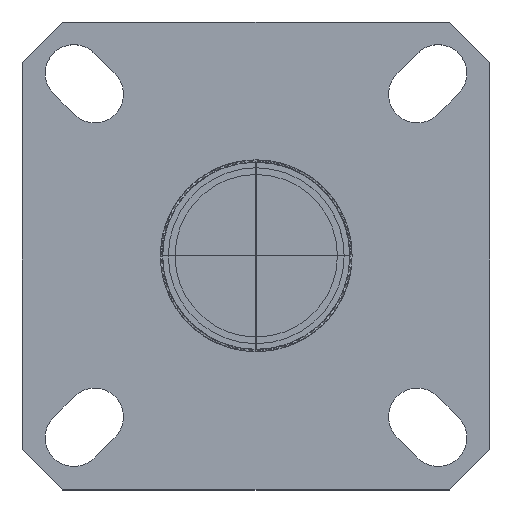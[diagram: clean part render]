
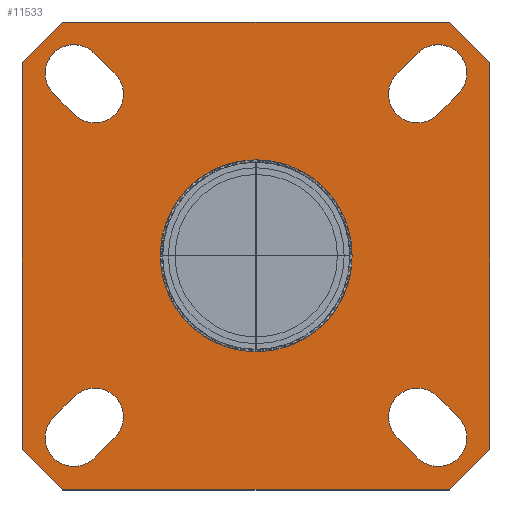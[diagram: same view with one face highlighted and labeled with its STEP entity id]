
A CAD part, top view. The second image highlights one B-rep face of the part: STEP entity #11533.
In plain terms, the highlighted planar face has unit normal (0, 0, 1).
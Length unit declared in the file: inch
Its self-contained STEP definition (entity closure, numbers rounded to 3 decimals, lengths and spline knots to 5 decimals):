
#2515=CARTESIAN_POINT('',(0.,0.,0.));
#2516=DIRECTION('',(0.,0.,1.));
#2517=DIRECTION('',(1.,0.,0.));
#2518=AXIS2_PLACEMENT_3D('',#2515,#2516,#2517);
#3717=DIRECTION('',(0.707,0.707,0.));
#3718=VECTOR('',#3717,0.128);
#3719=CARTESIAN_POINT('',(-0.522,0.43049,0.));
#3720=LINE('',#3719,#3718);
#3721=DIRECTION('',(1.,0.,0.));
#3722=VECTOR('',#3721,0.86198);
#3723=CARTESIAN_POINT('',(-0.43149,0.521,0.));
#3724=LINE('',#3723,#3722);
#3725=DIRECTION('',(0.707,-0.707,0.));
#3726=VECTOR('',#3725,0.128);
#3727=CARTESIAN_POINT('',(0.43049,0.521,0.));
#3728=LINE('',#3727,#3726);
#3729=DIRECTION('',(0.,-1.,0.));
#3730=VECTOR('',#3729,0.86198);
#3731=CARTESIAN_POINT('',(0.521,0.43049,0.));
#3732=LINE('',#3731,#3730);
#3733=DIRECTION('',(-0.707,-0.707,0.));
#3734=VECTOR('',#3733,0.128);
#3735=CARTESIAN_POINT('',(0.521,-0.43149,0.));
#3736=LINE('',#3735,#3734);
#3737=DIRECTION('',(-1.,0.,0.));
#3738=VECTOR('',#3737,0.86198);
#3739=CARTESIAN_POINT('',(0.43049,-0.522,0.));
#3740=LINE('',#3739,#3738);
#3741=DIRECTION('',(-0.707,0.707,0.));
#3742=VECTOR('',#3741,0.128);
#3743=CARTESIAN_POINT('',(-0.43149,-0.522,0.));
#3744=LINE('',#3743,#3742);
#3745=DIRECTION('',(0.,1.,0.));
#3746=VECTOR('',#3745,0.86198);
#3747=CARTESIAN_POINT('',(-0.522,-0.43149,0.));
#3748=LINE('',#3747,#3746);
#3749=DIRECTION('',(-0.707,-0.707,0.));
#3750=VECTOR('',#3749,0.06576);
#3751=CARTESIAN_POINT('',(-0.40525,-0.31375,0.));
#3752=LINE('',#3751,#3750);
#3753=CARTESIAN_POINT('',(-0.4065,-0.4055,0.));
#3754=DIRECTION('',(0.,0.,1.));
#3755=DIRECTION('',(-0.707,0.707,0.));
#3756=AXIS2_PLACEMENT_3D('',#3753,#3754,#3755);
#3758=DIRECTION('',(0.707,0.707,0.));
#3759=VECTOR('',#3758,0.06576);
#3760=CARTESIAN_POINT('',(-0.36125,-0.45075,0.));
#3761=LINE('',#3760,#3759);
#3762=CARTESIAN_POINT('',(-0.36,-0.359,0.));
#3763=DIRECTION('',(0.,0.,1.));
#3764=DIRECTION('',(0.707,-0.707,0.));
#3765=AXIS2_PLACEMENT_3D('',#3762,#3763,#3764);
#3767=DIRECTION('',(0.707,-0.707,0.));
#3768=VECTOR('',#3767,0.06576);
#3769=CARTESIAN_POINT('',(-0.45175,0.36125,0.));
#3770=LINE('',#3769,#3768);
#3771=CARTESIAN_POINT('',(-0.36,0.36,0.));
#3772=DIRECTION('',(0.,0.,1.));
#3773=DIRECTION('',(-0.707,-0.707,0.));
#3774=AXIS2_PLACEMENT_3D('',#3771,#3772,#3773);
#3776=DIRECTION('',(-0.707,0.707,0.));
#3777=VECTOR('',#3776,0.06576);
#3778=CARTESIAN_POINT('',(-0.31475,0.40525,0.));
#3779=LINE('',#3778,#3777);
#3780=CARTESIAN_POINT('',(-0.4065,0.4065,0.));
#3781=DIRECTION('',(0.,0.,1.));
#3782=DIRECTION('',(0.707,0.707,0.));
#3783=AXIS2_PLACEMENT_3D('',#3780,#3781,#3782);
#3785=DIRECTION('',(-0.707,-0.707,0.));
#3786=VECTOR('',#3785,0.06576);
#3787=CARTESIAN_POINT('',(0.36025,0.45175,0.));
#3788=LINE('',#3787,#3786);
#3789=CARTESIAN_POINT('',(0.359,0.36,0.));
#3790=DIRECTION('',(0.,0.,1.));
#3791=DIRECTION('',(-0.707,0.707,0.));
#3792=AXIS2_PLACEMENT_3D('',#3789,#3790,#3791);
#3794=DIRECTION('',(0.707,0.707,0.));
#3795=VECTOR('',#3794,0.06576);
#3796=CARTESIAN_POINT('',(0.40425,0.31475,0.));
#3797=LINE('',#3796,#3795);
#3798=CARTESIAN_POINT('',(0.4055,0.4065,0.));
#3799=DIRECTION('',(0.,0.,1.));
#3800=DIRECTION('',(0.707,-0.707,0.));
#3801=AXIS2_PLACEMENT_3D('',#3798,#3799,#3800);
#3803=CARTESIAN_POINT('',(0.359,-0.359,0.));
#3804=DIRECTION('',(0.,0.,1.));
#3805=DIRECTION('',(0.707,0.707,0.));
#3806=AXIS2_PLACEMENT_3D('',#3803,#3804,#3805);
#3808=DIRECTION('',(0.707,-0.707,0.));
#3809=VECTOR('',#3808,0.06576);
#3810=CARTESIAN_POINT('',(0.31375,-0.40425,0.));
#3811=LINE('',#3810,#3809);
#3812=CARTESIAN_POINT('',(0.4055,-0.4055,0.));
#3813=DIRECTION('',(0.,0.,1.));
#3814=DIRECTION('',(-0.707,-0.707,0.));
#3815=AXIS2_PLACEMENT_3D('',#3812,#3813,#3814);
#3817=DIRECTION('',(-0.707,0.707,0.));
#3818=VECTOR('',#3817,0.06576);
#3819=CARTESIAN_POINT('',(0.45075,-0.36025,0.));
#3820=LINE('',#3819,#3818);
#4021=CARTESIAN_POINT('',(0.,0.,0.));
#4022=DIRECTION('',(0.,0.,1.));
#4023=DIRECTION('',(-1.,0.,0.));
#4024=AXIS2_PLACEMENT_3D('',#4021,#4022,#4023);
#9499=CARTESIAN_POINT('',(-0.522,0.43049,0.));
#9500=CARTESIAN_POINT('',(-0.43149,0.521,0.));
#9501=VERTEX_POINT('',#9499);
#9502=VERTEX_POINT('',#9500);
#9503=CARTESIAN_POINT('',(0.43049,0.521,0.));
#9504=VERTEX_POINT('',#9503);
#9505=CARTESIAN_POINT('',(0.521,0.43049,0.));
#9506=VERTEX_POINT('',#9505);
#9507=CARTESIAN_POINT('',(0.521,-0.43149,0.));
#9508=VERTEX_POINT('',#9507);
#9509=CARTESIAN_POINT('',(0.43049,-0.522,0.));
#9510=VERTEX_POINT('',#9509);
#9511=CARTESIAN_POINT('',(-0.43149,-0.522,0.));
#9512=VERTEX_POINT('',#9511);
#9513=CARTESIAN_POINT('',(-0.522,-0.43149,0.));
#9514=VERTEX_POINT('',#9513);
#9515=CARTESIAN_POINT('',(-0.40525,-0.31375,0.));
#9516=CARTESIAN_POINT('',(-0.45175,-0.36025,0.));
#9517=VERTEX_POINT('',#9515);
#9518=VERTEX_POINT('',#9516);
#9519=CARTESIAN_POINT('',(-0.36125,-0.45075,0.));
#9520=VERTEX_POINT('',#9519);
#9521=CARTESIAN_POINT('',(-0.31475,-0.40425,0.));
#9522=VERTEX_POINT('',#9521);
#9523=CARTESIAN_POINT('',(-0.45175,0.36125,0.));
#9524=CARTESIAN_POINT('',(-0.40525,0.31475,0.));
#9525=VERTEX_POINT('',#9523);
#9526=VERTEX_POINT('',#9524);
#9527=CARTESIAN_POINT('',(-0.31475,0.40525,0.));
#9528=VERTEX_POINT('',#9527);
#9529=CARTESIAN_POINT('',(-0.36125,0.45175,0.));
#9530=VERTEX_POINT('',#9529);
#9531=CARTESIAN_POINT('',(0.36025,0.45175,0.));
#9532=CARTESIAN_POINT('',(0.31375,0.40525,0.));
#9533=VERTEX_POINT('',#9531);
#9534=VERTEX_POINT('',#9532);
#9535=CARTESIAN_POINT('',(0.40425,0.31475,0.));
#9536=VERTEX_POINT('',#9535);
#9537=CARTESIAN_POINT('',(0.45075,0.36125,0.));
#9538=VERTEX_POINT('',#9537);
#9539=CARTESIAN_POINT('',(0.40425,-0.31375,0.));
#9540=CARTESIAN_POINT('',(0.31375,-0.40425,0.));
#9541=VERTEX_POINT('',#9539);
#9542=VERTEX_POINT('',#9540);
#9543=CARTESIAN_POINT('',(0.36025,-0.45075,0.));
#9544=VERTEX_POINT('',#9543);
#9545=CARTESIAN_POINT('',(0.45075,-0.36025,0.));
#9546=VERTEX_POINT('',#9545);
#9595=CARTESIAN_POINT('',(0.2135,0.,0.));
#9596=CARTESIAN_POINT('',(-0.2135,0.,0.));
#9597=VERTEX_POINT('',#9595);
#9598=VERTEX_POINT('',#9596);
#11465=CARTESIAN_POINT('',(0.,0.,0.));
#11466=DIRECTION('',(0.,0.,-1.));
#11467=DIRECTION('',(0.,-1.,0.));
#11468=AXIS2_PLACEMENT_3D('',#11465,#11466,#11467);
#11469=PLANE('',#11468);
#11471=ORIENTED_EDGE('',*,*,#11470,.T.);
#11473=ORIENTED_EDGE('',*,*,#11472,.T.);
#11475=ORIENTED_EDGE('',*,*,#11474,.T.);
#11477=ORIENTED_EDGE('',*,*,#11476,.T.);
#11479=ORIENTED_EDGE('',*,*,#11478,.T.);
#11481=ORIENTED_EDGE('',*,*,#11480,.T.);
#11483=ORIENTED_EDGE('',*,*,#11482,.T.);
#11485=ORIENTED_EDGE('',*,*,#11484,.T.);
#11486=EDGE_LOOP('',(#11471,#11473,#11475,#11477,#11479,#11481,#11483,#11485));
#11487=FACE_OUTER_BOUND('',#11486,.F.);
#11489=ORIENTED_EDGE('',*,*,#11488,.T.);
#11491=ORIENTED_EDGE('',*,*,#11490,.T.);
#11493=ORIENTED_EDGE('',*,*,#11492,.T.);
#11495=ORIENTED_EDGE('',*,*,#11494,.T.);
#11496=EDGE_LOOP('',(#11489,#11491,#11493,#11495));
#11497=FACE_BOUND('',#11496,.F.);
#11499=ORIENTED_EDGE('',*,*,#11498,.T.);
#11501=ORIENTED_EDGE('',*,*,#11500,.T.);
#11503=ORIENTED_EDGE('',*,*,#11502,.T.);
#11505=ORIENTED_EDGE('',*,*,#11504,.T.);
#11506=EDGE_LOOP('',(#11499,#11501,#11503,#11505));
#11507=FACE_BOUND('',#11506,.F.);
#11509=ORIENTED_EDGE('',*,*,#11508,.T.);
#11511=ORIENTED_EDGE('',*,*,#11510,.T.);
#11513=ORIENTED_EDGE('',*,*,#11512,.T.);
#11515=ORIENTED_EDGE('',*,*,#11514,.T.);
#11516=EDGE_LOOP('',(#11509,#11511,#11513,#11515));
#11517=FACE_BOUND('',#11516,.F.);
#11519=ORIENTED_EDGE('',*,*,#11518,.T.);
#11521=ORIENTED_EDGE('',*,*,#11520,.T.);
#11523=ORIENTED_EDGE('',*,*,#11522,.T.);
#11525=ORIENTED_EDGE('',*,*,#11524,.T.);
#11526=EDGE_LOOP('',(#11519,#11521,#11523,#11525));
#11527=FACE_BOUND('',#11526,.F.);
#11528=ORIENTED_EDGE('',*,*,#11025,.T.);
#11530=ORIENTED_EDGE('',*,*,#11529,.T.);
#11531=EDGE_LOOP('',(#11528,#11530));
#11532=FACE_BOUND('',#11531,.F.);
#11533=ADVANCED_FACE('',(#11487,#11497,#11507,#11517,#11527,#11532),#11469,.F.);
#2519=CIRCLE('',#2518,0.2135);
#3757=CIRCLE('',#3756,0.064);
#3766=CIRCLE('',#3765,0.064);
#3775=CIRCLE('',#3774,0.064);
#3784=CIRCLE('',#3783,0.064);
#3793=CIRCLE('',#3792,0.064);
#3802=CIRCLE('',#3801,0.064);
#3807=CIRCLE('',#3806,0.064);
#3816=CIRCLE('',#3815,0.064);
#4025=CIRCLE('',#4024,0.2135);
#11025=EDGE_CURVE('',#9597,#9598,#2519,.T.);
#11470=EDGE_CURVE('',#9501,#9502,#3720,.T.);
#11472=EDGE_CURVE('',#9502,#9504,#3724,.T.);
#11474=EDGE_CURVE('',#9504,#9506,#3728,.T.);
#11476=EDGE_CURVE('',#9506,#9508,#3732,.T.);
#11478=EDGE_CURVE('',#9508,#9510,#3736,.T.);
#11480=EDGE_CURVE('',#9510,#9512,#3740,.T.);
#11482=EDGE_CURVE('',#9512,#9514,#3744,.T.);
#11484=EDGE_CURVE('',#9514,#9501,#3748,.T.);
#11488=EDGE_CURVE('',#9517,#9518,#3752,.T.);
#11490=EDGE_CURVE('',#9518,#9520,#3757,.T.);
#11492=EDGE_CURVE('',#9520,#9522,#3761,.T.);
#11494=EDGE_CURVE('',#9522,#9517,#3766,.T.);
#11498=EDGE_CURVE('',#9525,#9526,#3770,.T.);
#11500=EDGE_CURVE('',#9526,#9528,#3775,.T.);
#11502=EDGE_CURVE('',#9528,#9530,#3779,.T.);
#11504=EDGE_CURVE('',#9530,#9525,#3784,.T.);
#11508=EDGE_CURVE('',#9533,#9534,#3788,.T.);
#11510=EDGE_CURVE('',#9534,#9536,#3793,.T.);
#11512=EDGE_CURVE('',#9536,#9538,#3797,.T.);
#11514=EDGE_CURVE('',#9538,#9533,#3802,.T.);
#11518=EDGE_CURVE('',#9541,#9542,#3807,.T.);
#11520=EDGE_CURVE('',#9542,#9544,#3811,.T.);
#11522=EDGE_CURVE('',#9544,#9546,#3816,.T.);
#11524=EDGE_CURVE('',#9546,#9541,#3820,.T.);
#11529=EDGE_CURVE('',#9598,#9597,#4025,.T.);
